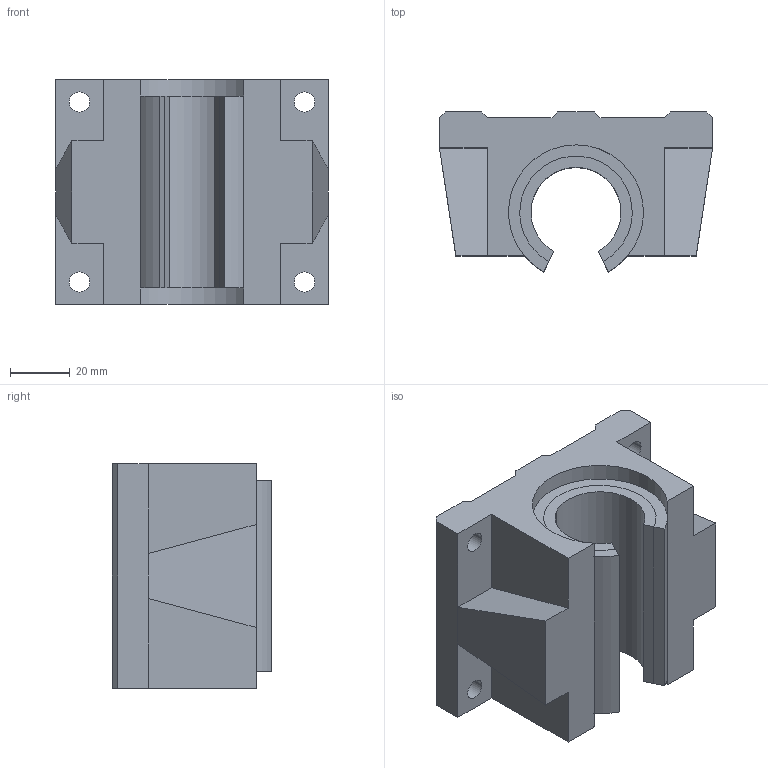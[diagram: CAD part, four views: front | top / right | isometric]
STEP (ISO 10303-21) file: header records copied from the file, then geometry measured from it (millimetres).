
FILE_DESCRIPTION((''),'2;1');
FILE_NAME('C:\Documents and Settings\ｿﾀﾀ蠑ｷ1\ｹﾙﾅﾁ ﾈｭｸ饅\ｺﾎﾇｰﾆﾄﾀﾏ\ﾁｦﾇｰ\TBR__UU\TBR30UU.stp','2005-06-15T17:37:23',('ｿﾀﾀ蠑ｷ1'),(''),'Autodesk Inventor 9','Autodesk Inventor 9','');
FILE_SCHEMA(('AUTOMOTIVE_DESIGN { 1 0 10303 214 1 1 1 1 }'));
Length unit declared in the file: millimetre
Products named in the file (1): TBR__
Bounding box: 91 x 53.28 x 75 mm (x, y, z)
Volume: 197823.4 mm3; surface area: 34435.4 mm2
Topology: 1 solids, 1 shells, 55 faces, 147 edges, 94 vertices
Faces by surface type: plane 33, bspline 14, cylinder 8
Entity records: 1842 total; most frequent: CARTESIAN_POINT 451, ORIENTED_EDGE 294, DIRECTION 265, EDGE_CURVE 147, VECTOR 113, LINE 113, VERTEX_POINT 94, AXIS2_PLACEMENT_3D 76
